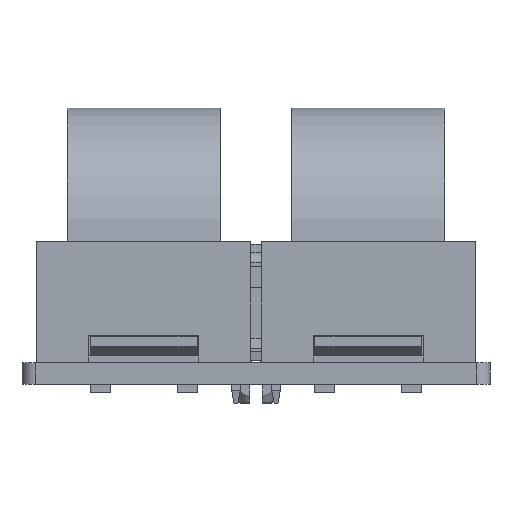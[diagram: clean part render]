
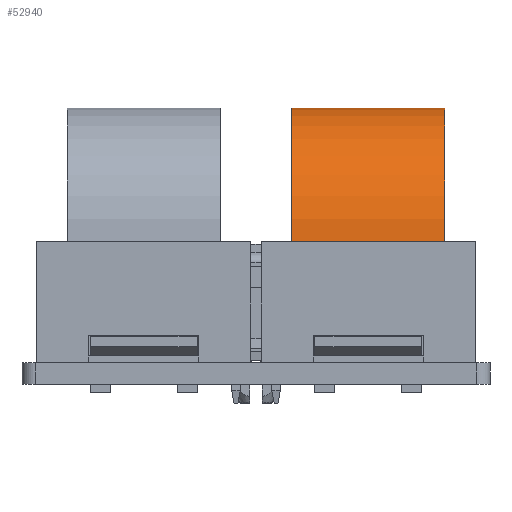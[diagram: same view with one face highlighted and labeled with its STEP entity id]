
A CAD part, front view. The second image highlights one B-rep face of the part: STEP entity #52940.
In plain terms, the highlighted cylindrical face has radius 10 mm (diameter 20 mm), a partial arc.
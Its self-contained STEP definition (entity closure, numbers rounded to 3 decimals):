
#48792 = PLANE('',#48793);
#48793 = AXIS2_PLACEMENT_3D('',#48794,#48795,#48796);
#48794 = CARTESIAN_POINT('',(0.,-10.,
    -3.768));
#48795 = DIRECTION('',(0.,1.,0.));
#48796 = DIRECTION('',(0.,0.,-1.));
#49388 = PLANE('',#49389);
#49389 = AXIS2_PLACEMENT_3D('',#49390,#49391,#49392);
#49390 = CARTESIAN_POINT('',(0.,10.,
    -3.768));
#49391 = DIRECTION('',(0.,-1.,0.));
#49392 = DIRECTION('',(1.,0.,0.));
#49554 = VERTEX_POINT('',#49555);
#49555 = CARTESIAN_POINT('',(5.73,10.,
    9.));
#49569 = PLANE('',#49570);
#49570 = AXIS2_PLACEMENT_3D('',#49571,#49572,#49573);
#49571 = CARTESIAN_POINT('',(5.73,0.,
    -3.768));
#49572 = DIRECTION('',(-1.,0.,0.));
#49573 = DIRECTION('',(0.,-1.,0.));
#49581 = EDGE_CURVE('',#49554,#49582,#49584,.T.);
#49582 = VERTEX_POINT('',#49583);
#49583 = CARTESIAN_POINT('',(-5.73,10.,
    9.));
#49584 = SURFACE_CURVE('',#49585,(#49589,#49596),.PCURVE_S1.);
#49585 = LINE('',#49586,#49587);
#49586 = CARTESIAN_POINT('',(4.73,10.,
    9.));
#49587 = VECTOR('',#49588,1.);
#49588 = DIRECTION('',(-1.,0.,0.));
#49589 = PCURVE('',#49388,#49590);
#49590 = DEFINITIONAL_REPRESENTATION('',(#49591),#49595);
#49591 = LINE('',#49592,#49593);
#49592 = CARTESIAN_POINT('',(4.73,12.768));
#49593 = VECTOR('',#49594,1.);
#49594 = DIRECTION('',(-1.,0.));
#49595 = ( GEOMETRIC_REPRESENTATION_CONTEXT(2) 
PARAMETRIC_REPRESENTATION_CONTEXT() REPRESENTATION_CONTEXT('2D SPACE',''
  ) );
#49596 = PCURVE('',#49597,#49602);
#49597 = CYLINDRICAL_SURFACE('',#49598,10.);
#49598 = AXIS2_PLACEMENT_3D('',#49599,#49600,#49601);
#49599 = CARTESIAN_POINT('',(-28.09,0.,
    9.));
#49600 = DIRECTION('',(1.,0.,0.));
#49601 = DIRECTION('',(0.,1.,0.));
#49602 = DEFINITIONAL_REPRESENTATION('',(#49603),#49607);
#49603 = LINE('',#49604,#49605);
#49604 = CARTESIAN_POINT('',(0.,32.821));
#49605 = VECTOR('',#49606,1.);
#49606 = DIRECTION('',(0.,-1.));
#49607 = ( GEOMETRIC_REPRESENTATION_CONTEXT(2) 
PARAMETRIC_REPRESENTATION_CONTEXT() REPRESENTATION_CONTEXT('2D SPACE',''
  ) );
#49625 = PLANE('',#49626);
#49626 = AXIS2_PLACEMENT_3D('',#49627,#49628,#49629);
#49627 = CARTESIAN_POINT('',(-5.73,0.,
    -3.768));
#49628 = DIRECTION('',(1.,0.,0.));
#49629 = DIRECTION('',(0.,1.,0.));
#50251 = VERTEX_POINT('',#50252);
#50252 = CARTESIAN_POINT('',(-5.73,-10.,
    9.));
#50273 = EDGE_CURVE('',#50251,#50274,#50276,.T.);
#50274 = VERTEX_POINT('',#50275);
#50275 = CARTESIAN_POINT('',(5.73,-10.,
    9.));
#50276 = SURFACE_CURVE('',#50277,(#50281,#50288),.PCURVE_S1.);
#50277 = LINE('',#50278,#50279);
#50278 = CARTESIAN_POINT('',(4.73,-10.,
    9.));
#50279 = VECTOR('',#50280,1.);
#50280 = DIRECTION('',(1.,0.,0.));
#50281 = PCURVE('',#48792,#50282);
#50282 = DEFINITIONAL_REPRESENTATION('',(#50283),#50287);
#50283 = LINE('',#50284,#50285);
#50284 = CARTESIAN_POINT('',(-12.768,-4.73));
#50285 = VECTOR('',#50286,1.);
#50286 = DIRECTION('',(0.,-1.));
#50287 = ( GEOMETRIC_REPRESENTATION_CONTEXT(2) 
PARAMETRIC_REPRESENTATION_CONTEXT() REPRESENTATION_CONTEXT('2D SPACE',''
  ) );
#50288 = PCURVE('',#49597,#50289);
#50289 = DEFINITIONAL_REPRESENTATION('',(#50290),#50294);
#50290 = LINE('',#50291,#50292);
#50291 = CARTESIAN_POINT('',(3.142,32.821));
#50292 = VECTOR('',#50293,1.);
#50293 = DIRECTION('',(0.,1.));
#50294 = ( GEOMETRIC_REPRESENTATION_CONTEXT(2) 
PARAMETRIC_REPRESENTATION_CONTEXT() REPRESENTATION_CONTEXT('2D SPACE',''
  ) );
#51627 = EDGE_CURVE('',#49554,#50274,#51628,.T.);
#51628 = SURFACE_CURVE('',#51629,(#51634,#51645),.PCURVE_S1.);
#51629 = CIRCLE('',#51630,10.);
#51630 = AXIS2_PLACEMENT_3D('',#51631,#51632,#51633);
#51631 = CARTESIAN_POINT('',(5.73,0.,
    9.));
#51632 = DIRECTION('',(1.,0.,0.));
#51633 = DIRECTION('',(0.,-1.,0.));
#51634 = PCURVE('',#49569,#51635);
#51635 = DEFINITIONAL_REPRESENTATION('',(#51636),#51644);
#51636 = ( BOUNDED_CURVE() B_SPLINE_CURVE(2,(#51637,#51638,#51639,#51640
    ,#51641,#51642,#51643),.UNSPECIFIED.,.T.,.F.) 
B_SPLINE_CURVE_WITH_KNOTS((1,2,2,2,2,1),(-2.094,0.,
    2.094,4.189,6.283,8.378),
.UNSPECIFIED.) CURVE() GEOMETRIC_REPRESENTATION_ITEM() 
RATIONAL_B_SPLINE_CURVE((1.,0.5,1.,0.5,1.,0.5,1.)) REPRESENTATION_ITEM(
  '') );
#51637 = CARTESIAN_POINT('',(10.,12.768));
#51638 = CARTESIAN_POINT('',(10.,-4.553));
#51639 = CARTESIAN_POINT('',(-5.,4.107));
#51640 = CARTESIAN_POINT('',(-20.,12.768));
#51641 = CARTESIAN_POINT('',(-5.,21.428));
#51642 = CARTESIAN_POINT('',(10.,30.088));
#51643 = CARTESIAN_POINT('',(10.,12.768));
#51644 = ( GEOMETRIC_REPRESENTATION_CONTEXT(2) 
PARAMETRIC_REPRESENTATION_CONTEXT() REPRESENTATION_CONTEXT('2D SPACE',''
  ) );
#51645 = PCURVE('',#49597,#51646);
#51646 = DEFINITIONAL_REPRESENTATION('',(#51647),#51651);
#51647 = LINE('',#51648,#51649);
#51648 = CARTESIAN_POINT('',(-3.142,33.821));
#51649 = VECTOR('',#51650,1.);
#51650 = DIRECTION('',(1.,0.));
#51651 = ( GEOMETRIC_REPRESENTATION_CONTEXT(2) 
PARAMETRIC_REPRESENTATION_CONTEXT() REPRESENTATION_CONTEXT('2D SPACE',''
  ) );
#51665 = EDGE_CURVE('',#49582,#50251,#51666,.T.);
#51666 = SURFACE_CURVE('',#51667,(#51672,#51679),.PCURVE_S1.);
#51667 = CIRCLE('',#51668,10.);
#51668 = AXIS2_PLACEMENT_3D('',#51669,#51670,#51671);
#51669 = CARTESIAN_POINT('',(-5.73,0.,
    9.));
#51670 = DIRECTION('',(1.,0.,0.));
#51671 = DIRECTION('',(0.,1.,0.));
#51672 = PCURVE('',#49625,#51673);
#51673 = DEFINITIONAL_REPRESENTATION('',(#51674),#51678);
#51674 = CIRCLE('',#51675,10.);
#51675 = AXIS2_PLACEMENT_2D('',#51676,#51677);
#51676 = CARTESIAN_POINT('',(0.,12.768));
#51677 = DIRECTION('',(1.,0.));
#51678 = ( GEOMETRIC_REPRESENTATION_CONTEXT(2) 
PARAMETRIC_REPRESENTATION_CONTEXT() REPRESENTATION_CONTEXT('2D SPACE',''
  ) );
#51679 = PCURVE('',#49597,#51680);
#51680 = DEFINITIONAL_REPRESENTATION('',(#51681),#51685);
#51681 = LINE('',#51682,#51683);
#51682 = CARTESIAN_POINT('',(0.,22.361));
#51683 = VECTOR('',#51684,1.);
#51684 = DIRECTION('',(1.,0.));
#51685 = ( GEOMETRIC_REPRESENTATION_CONTEXT(2) 
PARAMETRIC_REPRESENTATION_CONTEXT() REPRESENTATION_CONTEXT('2D SPACE',''
  ) );
#52940 = ADVANCED_FACE('',(#52941),#49597,.T.);
#52941 = FACE_BOUND('',#52942,.T.);
#52942 = EDGE_LOOP('',(#52943,#52944,#52945,#52946));
#52943 = ORIENTED_EDGE('',*,*,#49581,.T.);
#52944 = ORIENTED_EDGE('',*,*,#51665,.T.);
#52945 = ORIENTED_EDGE('',*,*,#50273,.T.);
#52946 = ORIENTED_EDGE('',*,*,#51627,.F.);
